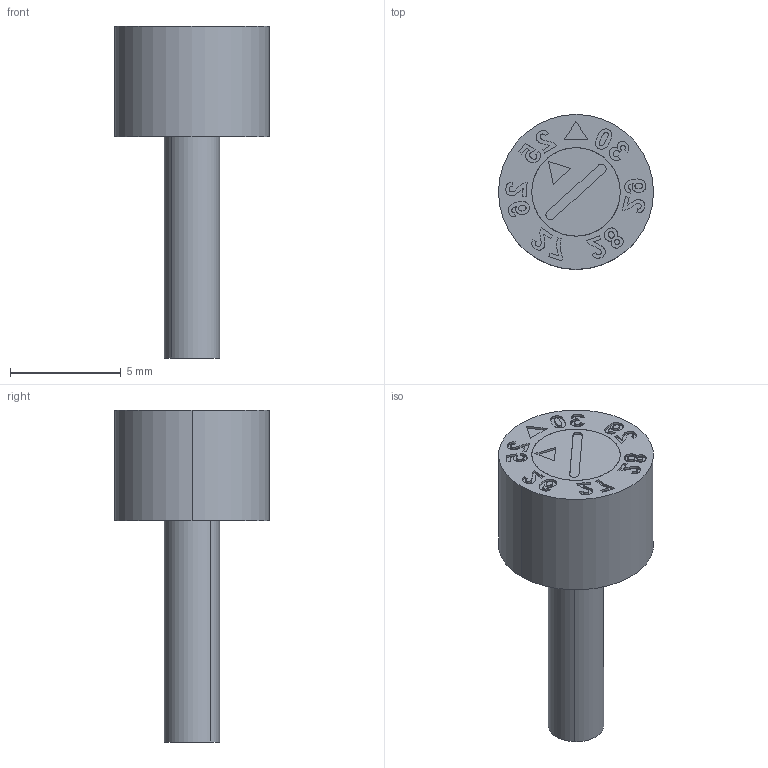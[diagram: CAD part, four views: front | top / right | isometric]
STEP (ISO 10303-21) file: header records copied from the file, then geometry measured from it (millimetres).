
FILE_DESCRIPTION (( 'STEP AP203' ), '1' );
FILE_NAME ('DMDP10-255.step', '2024-12-12T17:28:09', ( '' ), ( '' ), 'SwSTEP 2.0', 'SolidWorks 2023', '' );
FILE_SCHEMA (( 'CONFIG_CONTROL_DESIGN' ));
Length unit declared in the file: millimetre
Products named in the file (3): XDMDP10-AO; XDMDP10-255; DMDP10-255
Assembly tree (2 placements, depth 2):
  DMDP10-255
    XDMDP10-255
    XDMDP10-AO
Bounding box: 7 x 7 x 15 mm (x, y, z)
Volume: 240.9 mm3; surface area: 394 mm2
Topology: 2 solids, 2 shells, 208 faces, 546 edges, 364 vertices
Faces by surface type: bspline 124, plane 71, cylinder 13
Entity records: 12765 total; most frequent: CARTESIAN_POINT 8151, ORIENTED_EDGE 1092, EDGE_CURVE 546, DIRECTION 502, VERTEX_POINT 364, LINE 272, VECTOR 272, B_SPLINE_CURVE_WITH_KNOTS 248
